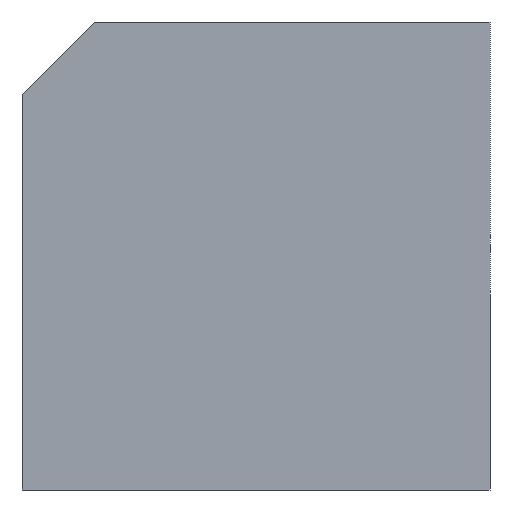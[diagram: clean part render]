
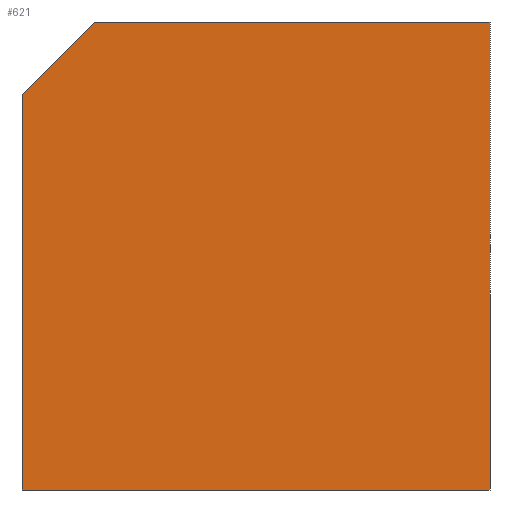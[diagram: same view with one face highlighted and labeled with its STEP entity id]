
A CAD part, front view. The second image highlights one B-rep face of the part: STEP entity #621.
In plain terms, the highlighted planar face has unit normal (0, -1, 0).
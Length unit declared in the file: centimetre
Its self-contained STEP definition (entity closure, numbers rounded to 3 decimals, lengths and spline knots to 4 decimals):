
#27 = VERTEX_POINT ( 'NONE', #159 ) ;
#28 = LINE ( 'NONE', #606, #270 ) ;
#48 = PLANE ( 'NONE',  #433 ) ;
#71 = ORIENTED_EDGE ( 'NONE', *, *, #600, .F. ) ;
#84 = DIRECTION ( 'NONE',  ( 0., 0., -1. ) ) ;
#111 = CARTESIAN_POINT ( 'NONE',  ( 0., 0., 845.6752 ) ) ;
#147 = DIRECTION ( 'NONE',  ( 1., 0., 0. ) ) ;
#149 = ORIENTED_EDGE ( 'NONE', *, *, #455, .F. ) ;
#159 = CARTESIAN_POINT ( 'NONE',  ( 154.3248, 0., 1000. ) ) ;
#163 = VECTOR ( 'NONE', #84, 100. ) ;
#178 = VERTEX_POINT ( 'NONE', #384 ) ;
#182 = CARTESIAN_POINT ( 'NONE',  ( 1000., 0., 1000. ) ) ;
#191 = FACE_OUTER_BOUND ( 'NONE', #460, .T. ) ;
#203 = CARTESIAN_POINT ( 'NONE',  ( 1000., 0., 0. ) ) ;
#252 = DIRECTION ( 'NONE',  ( -0.707, 0., -0.707 ) ) ;
#254 = ORIENTED_EDGE ( 'NONE', *, *, #570, .T. ) ;
#255 = VECTOR ( 'NONE', #147, 100. ) ;
#270 = VECTOR ( 'NONE', #616, 100. ) ;
#290 = CARTESIAN_POINT ( 'NONE',  ( 1000., 0., 1000. ) ) ;
#305 = EDGE_CURVE ( 'NONE', #178, #643, #639, .T. ) ;
#308 = CARTESIAN_POINT ( 'NONE',  ( 0., 0., 1000. ) ) ;
#324 = VERTEX_POINT ( 'NONE', #111 ) ;
#331 = CARTESIAN_POINT ( 'NONE',  ( 0., 0., 0. ) ) ;
#363 = DIRECTION ( 'NONE',  ( 0., 1., 0. ) ) ;
#384 = CARTESIAN_POINT ( 'NONE',  ( 0., 0., 0. ) ) ;
#392 = LINE ( 'NONE', #182, #163 ) ;
#397 = VECTOR ( 'NONE', #540, 100. ) ;
#433 = AXIS2_PLACEMENT_3D ( 'NONE', #308, #363, #515 ) ;
#455 = EDGE_CURVE ( 'NONE', #520, #643, #392, .T. ) ;
#460 = EDGE_LOOP ( 'NONE', ( #71, #254, #556, #510, #149 ) ) ;
#461 = CARTESIAN_POINT ( 'NONE',  ( 0., 0., 1000. ) ) ;
#464 = LINE ( 'NONE', #461, #255 ) ;
#469 = CARTESIAN_POINT ( 'NONE',  ( 154.3248, 0., 1000. ) ) ;
#486 = EDGE_CURVE ( 'NONE', #324, #178, #28, .T. ) ;
#510 = ORIENTED_EDGE ( 'NONE', *, *, #305, .T. ) ;
#515 = DIRECTION ( 'NONE',  ( 0., 0., 1. ) ) ;
#520 = VERTEX_POINT ( 'NONE', #290 ) ;
#540 = DIRECTION ( 'NONE',  ( 1., 0., 0. ) ) ;
#556 = ORIENTED_EDGE ( 'NONE', *, *, #486, .T. ) ;
#570 = EDGE_CURVE ( 'NONE', #27, #324, #582, .T. ) ;
#582 = LINE ( 'NONE', #469, #624 ) ;
#600 = EDGE_CURVE ( 'NONE', #27, #520, #464, .T. ) ;
#606 = CARTESIAN_POINT ( 'NONE',  ( 0., 0., 1000. ) ) ;
#616 = DIRECTION ( 'NONE',  ( 0., 0., -1. ) ) ;
#621 = ADVANCED_FACE ( 'NONE', ( #191 ), #48, .F. ) ;
#624 = VECTOR ( 'NONE', #252, 100. ) ;
#639 = LINE ( 'NONE', #331, #397 ) ;
#643 = VERTEX_POINT ( 'NONE', #203 ) ;
